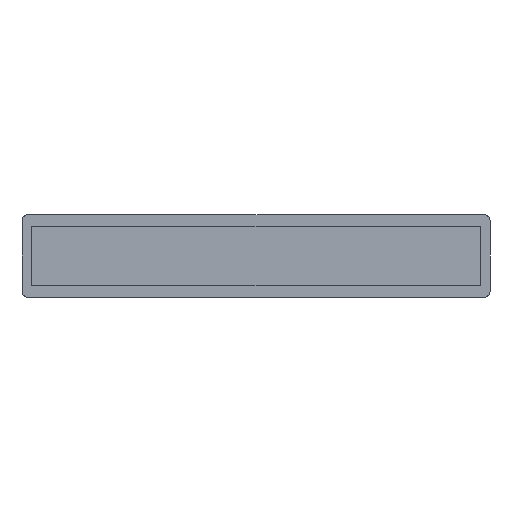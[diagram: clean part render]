
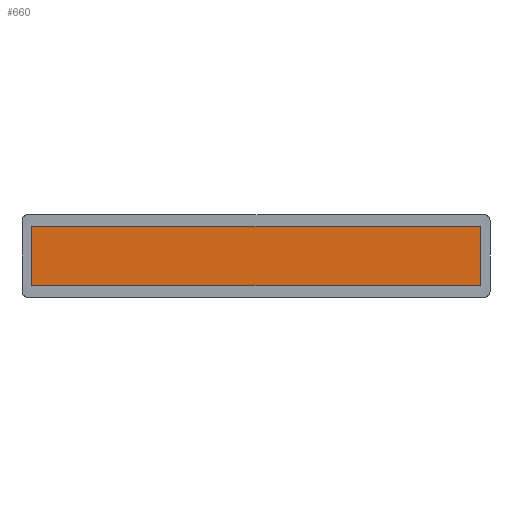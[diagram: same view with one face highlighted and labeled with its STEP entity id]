
A CAD part, front view. The second image highlights one B-rep face of the part: STEP entity #660.
In plain terms, the highlighted planar face has unit normal (0, -1, 0).
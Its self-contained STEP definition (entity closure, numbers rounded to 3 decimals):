
#41 = CARTESIAN_POINT ( 'NONE',  ( 1139.5, -416.5, -150. ) ) ;
#525 = VECTOR ( 'NONE', #3793, 1000. ) ;
#660 = ADVANCED_FACE ( 'NONE', ( #10498 ), #11314, .T. ) ;
#729 = CARTESIAN_POINT ( 'NONE',  ( 0., -416.5, 0. ) ) ;
#781 = DIRECTION ( 'NONE',  ( 0., 0., -1. ) ) ;
#1409 = ORIENTED_EDGE ( 'NONE', *, *, #4355, .T. ) ;
#1579 = DIRECTION ( 'NONE',  ( 0., 0., -1. ) ) ;
#2363 = AXIS2_PLACEMENT_3D ( 'NONE', #729, #2580, #781 ) ;
#2580 = DIRECTION ( 'NONE',  ( 0., -1., 0. ) ) ;
#2798 = ORIENTED_EDGE ( 'NONE', *, *, #5237, .T. ) ;
#2844 = VERTEX_POINT ( 'NONE', #9695 ) ;
#3487 = EDGE_LOOP ( 'NONE', ( #10076, #1409, #2798, #11101 ) ) ;
#3488 = LINE ( 'NONE', #6938, #8857 ) ;
#3793 = DIRECTION ( 'NONE',  ( 1., 0., 0. ) ) ;
#4112 = VECTOR ( 'NONE', #8785, 1000. ) ;
#4355 = EDGE_CURVE ( 'NONE', #8096, #5538, #10786, .T. ) ;
#4643 = CARTESIAN_POINT ( 'NONE',  ( -1139.5, -416.5, -150. ) ) ;
#4652 = EDGE_CURVE ( 'NONE', #2844, #8096, #3488, .T. ) ;
#4690 = VERTEX_POINT ( 'NONE', #6351 ) ;
#5237 = EDGE_CURVE ( 'NONE', #5538, #4690, #11048, .T. ) ;
#5538 = VERTEX_POINT ( 'NONE', #41 ) ;
#6123 = EDGE_CURVE ( 'NONE', #4690, #2844, #9602, .T. ) ;
#6351 = CARTESIAN_POINT ( 'NONE',  ( 1139.5, -416.5, 150. ) ) ;
#6928 = CARTESIAN_POINT ( 'NONE',  ( 1139.5, -416.5, 150. ) ) ;
#6938 = CARTESIAN_POINT ( 'NONE',  ( -1139.5, -416.5, -150. ) ) ;
#8096 = VERTEX_POINT ( 'NONE', #4643 ) ;
#8785 = DIRECTION ( 'NONE',  ( -1., 0., 0. ) ) ;
#8857 = VECTOR ( 'NONE', #1579, 1000. ) ;
#9602 = LINE ( 'NONE', #6928, #4112 ) ;
#9695 = CARTESIAN_POINT ( 'NONE',  ( -1139.5, -416.5, 150. ) ) ;
#9914 = CARTESIAN_POINT ( 'NONE',  ( 1139.5, -416.5, -150. ) ) ;
#10003 = DIRECTION ( 'NONE',  ( 0., 0., 1. ) ) ;
#10076 = ORIENTED_EDGE ( 'NONE', *, *, #4652, .T. ) ;
#10116 = CARTESIAN_POINT ( 'NONE',  ( 1139.5, -416.5, -150. ) ) ;
#10498 = FACE_OUTER_BOUND ( 'NONE', #3487, .T. ) ;
#10786 = LINE ( 'NONE', #9914, #525 ) ;
#11048 = LINE ( 'NONE', #10116, #11105 ) ;
#11101 = ORIENTED_EDGE ( 'NONE', *, *, #6123, .T. ) ;
#11105 = VECTOR ( 'NONE', #10003, 1000. ) ;
#11314 = PLANE ( 'NONE',  #2363 ) ;
